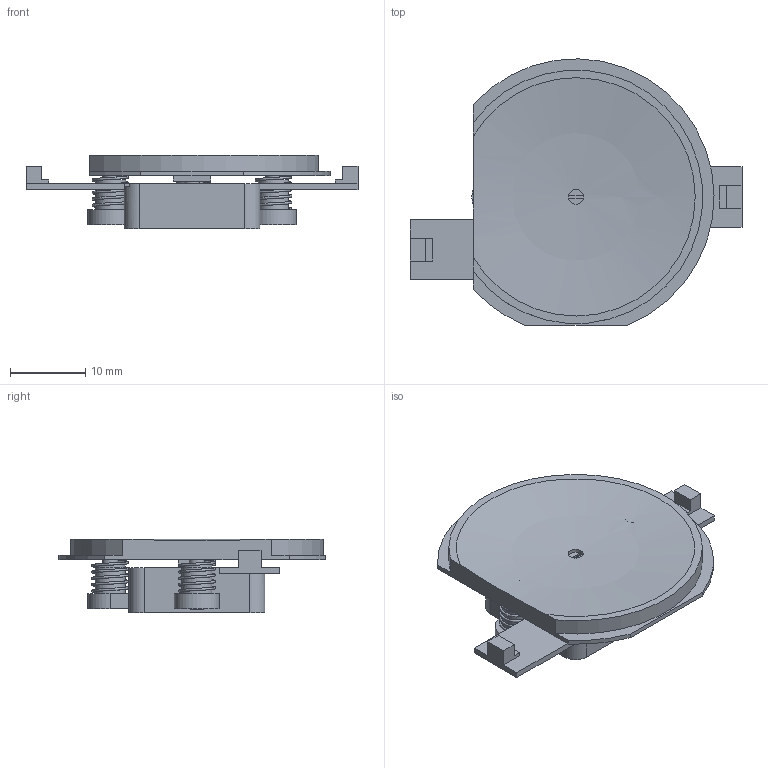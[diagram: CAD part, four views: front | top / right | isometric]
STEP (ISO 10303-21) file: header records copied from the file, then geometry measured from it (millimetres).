
FILE_DESCRIPTION(('Open CASCADE Model'),'2;1');
FILE_NAME('Open CASCADE Shape Model','2026-09-06T12:00:16',('Author'),( 'Open CASCADE'),'Open CASCADE STEP processor 7.7','Open CASCADE 7.7' ,'Unknown');
FILE_SCHEMA(('AUTOMOTIVE_DESIGN { 1 0 10303 214 1 1 1 1 }'));
Length unit declared in the file: millimetre
Products named in the file (16): Open CASCADE STEP translator 7.7 8; Open CASCADE STEP translator 7.7 8.1; Open CASCADE STEP translator 7.7 8.2; Open CASCADE STEP translator 7.7 8.3; Open CASCADE STEP translator 7.7 8.4; Open CASCADE STEP translator 7.7 8.5; Open CASCADE STEP translator 7.7 8.6; Open CASCADE STEP translator 7.7 8.7; Open CASCADE STEP translator 7.7 8.8; Open CASCADE STEP translator 7.7 8.9; Open CASCADE STEP translator 7.7 8.10; Open CASCADE STEP translator 7.7 8.11; Open CASCADE STEP translator 7.7 8.12; Open CASCADE STEP translator 7.7 8.13; Open CASCADE STEP translator 7.7 8.14; Open CASCADE STEP translator 7.7 8.15
Assembly tree (15 placements, depth 2):
  Open CASCADE STEP translator 7.7 8
    Open CASCADE STEP translator 7.7 8.1
    Open CASCADE STEP translator 7.7 8.2
    Open CASCADE STEP translator 7.7 8.3
    Open CASCADE STEP translator 7.7 8.4
    Open CASCADE STEP translator 7.7 8.5
    Open CASCADE STEP translator 7.7 8.6
    Open CASCADE STEP translator 7.7 8.7
    Open CASCADE STEP translator 7.7 8.8
    Open CASCADE STEP translator 7.7 8.9
    Open CASCADE STEP translator 7.7 8.10
    Open CASCADE STEP translator 7.7 8.11
    Open CASCADE STEP translator 7.7 8.12
    Open CASCADE STEP translator 7.7 8.13
    Open CASCADE STEP translator 7.7 8.14
    Open CASCADE STEP translator 7.7 8.15
Bounding box: 44 x 35.3 x 9.8 mm (x, y, z)
Volume: 3486.1 mm3; surface area: 4864.6 mm2
Topology: 15 solids, 15 shells, 139 faces, 322 edges, 214 vertices
Faces by surface type: plane 91, cylinder 44, bspline 3, sphere 1
Full cylindrical faces by diameter (mm): 2 x8, 2.008 x3, 2.05 x3, 4 x9, 5.2 x1
Entity records: 9905 total; most frequent: CARTESIAN_POINT 3154, DIRECTION 1225, LINE 654, VECTOR 654, ORIENTED_EDGE 644, PCURVE 644, DEFINITIONAL_REPRESENTATION 644, EDGE_CURVE 322
